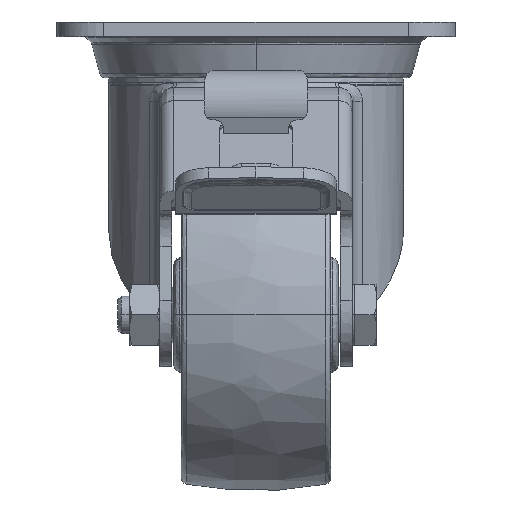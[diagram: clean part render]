
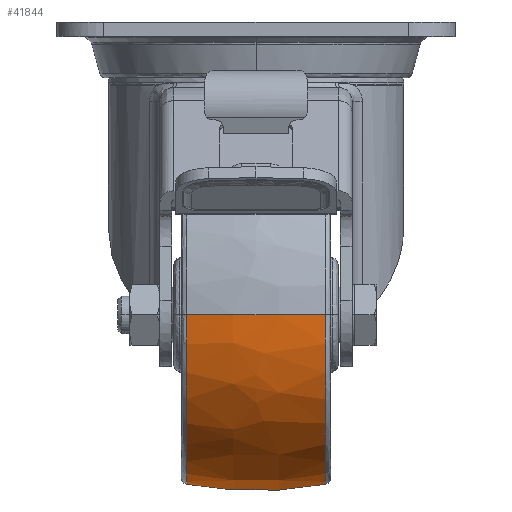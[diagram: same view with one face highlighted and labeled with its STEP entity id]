
A CAD part, top view. The second image highlights one B-rep face of the part: STEP entity #41844.
In plain terms, the highlighted free-form (B-spline) face has degree [3, 3] with [4, 4] control points.
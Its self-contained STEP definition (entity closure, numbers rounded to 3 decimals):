
#70 = CARTESIAN_POINT ( 'NONE',  ( 14.777, -62.5, 5.877 ) ) ;
#1268 = CARTESIAN_POINT ( 'NONE',  ( 14.777, -62.5, 42. ) ) ;
#1372 = CARTESIAN_POINT ( 'NONE',  ( -14.777, -62.5, 78.123 ) ) ;
#1439 = EDGE_CURVE ( 'NONE', #67720, #76233, #47292, .T. ) ;
#4287 = EDGE_CURVE ( 'NONE', #67720, #50850, #53947, .T. ) ;
#6121 = FACE_OUTER_BOUND ( 'NONE', #81586, .T. ) ;
#7636 = DIRECTION ( 'NONE',  ( 0., 0., 1. ) ) ;
#7740 = CARTESIAN_POINT ( 'NONE',  ( -4.983, -138.428, 4.036 ) ) ;
#8200 = VERTEX_POINT ( 'NONE', #70 ) ;
#9802 =( BOUNDED_SURFACE ( )  B_SPLINE_SURFACE ( 3, 3, ( 
 ( #13760, #32769, #39087, #1372 ),
 ( #45418, #7740, #51758, #14027 ),
 ( #58120, #20389, #64376, #26715 ),
 ( #70677, #33037, #76969, #39349 ) ),
 .UNSPECIFIED., .F., .F., .F. ) 
 B_SPLINE_SURFACE_WITH_KNOTS ( ( 4, 4 ),
 ( 4, 4 ),
 ( 0., 1. ),
 ( 0., 1. ),
 .UNSPECIFIED. ) 
 GEOMETRIC_REPRESENTATION_ITEM ( )  RATIONAL_B_SPLINE_SURFACE ( (
 ( 1., 0.333, 0.333, 1.),
 ( 0.989, 0.33, 0.33, 0.989),
 ( 0.989, 0.33, 0.33, 0.989),
 ( 1., 0.333, 0.333, 1.) ) ) 
 REPRESENTATION_ITEM ( '' )  SURFACE ( )  );
#10421 = EDGE_CURVE ( 'NONE', #50850, #8200, #20574, .T. ) ;
#13760 = CARTESIAN_POINT ( 'NONE',  ( -14.777, -62.5, 5.877 ) ) ;
#14027 = CARTESIAN_POINT ( 'NONE',  ( -4.983, -62.5, 79.964 ) ) ;
#15638 = DIRECTION ( 'NONE',  ( 1., 0., 0. ) ) ;
#15745 = AXIS2_PLACEMENT_3D ( 'NONE', #53353, #15638, #59690 ) ;
#19171 = CARTESIAN_POINT ( 'NONE',  ( 0., -62.5, 84.5 ) ) ;
#20389 = CARTESIAN_POINT ( 'NONE',  ( 4.983, -138.428, 4.036 ) ) ;
#20574 = CIRCLE ( 'NONE', #72803, 80. ) ;
#25495 = DIRECTION ( 'NONE',  ( 0., 0., -1. ) ) ;
#25992 = DIRECTION ( 'NONE',  ( 0., 1., 0. ) ) ;
#26715 = CARTESIAN_POINT ( 'NONE',  ( 4.983, -62.5, 79.964 ) ) ;
#28533 = CARTESIAN_POINT ( 'NONE',  ( -14.777, -62.5, 5.877 ) ) ;
#32769 = CARTESIAN_POINT ( 'NONE',  ( -14.777, -134.747, 5.877 ) ) ;
#33037 = CARTESIAN_POINT ( 'NONE',  ( 14.777, -134.747, 5.877 ) ) ;
#35219 = AXIS2_PLACEMENT_3D ( 'NONE', #1268, #45328, #7636 ) ;
#36800 = ORIENTED_EDGE ( 'NONE', *, *, #4287, .T. ) ;
#39087 = CARTESIAN_POINT ( 'NONE',  ( -14.777, -134.747, 78.123 ) ) ;
#39349 = CARTESIAN_POINT ( 'NONE',  ( 14.777, -62.5, 78.123 ) ) ;
#39578 = ORIENTED_EDGE ( 'NONE', *, *, #10421, .T. ) ;
#41844 = ADVANCED_FACE ( 'NONE', ( #6121 ), #9802, .T. ) ;
#45328 = DIRECTION ( 'NONE',  ( -1., 0., 0. ) ) ;
#45418 = CARTESIAN_POINT ( 'NONE',  ( -4.983, -62.5, 4.036 ) ) ;
#47292 = CIRCLE ( 'NONE', #63580, 80. ) ;
#50850 = VERTEX_POINT ( 'NONE', #28533 ) ;
#51758 = CARTESIAN_POINT ( 'NONE',  ( -4.983, -138.428, 79.964 ) ) ;
#51938 = CARTESIAN_POINT ( 'NONE',  ( -14.777, -62.5, 78.123 ) ) ;
#52497 = ORIENTED_EDGE ( 'NONE', *, *, #67681, .T. ) ;
#53353 = CARTESIAN_POINT ( 'NONE',  ( -14.777, -62.5, 42. ) ) ;
#53814 = CIRCLE ( 'NONE', #35219, 36.123 ) ;
#53947 = CIRCLE ( 'NONE', #15745, 36.123 ) ;
#58120 = CARTESIAN_POINT ( 'NONE',  ( 4.983, -62.5, 4.036 ) ) ;
#59690 = DIRECTION ( 'NONE',  ( 0., 0., 1. ) ) ;
#63148 = DIRECTION ( 'NONE',  ( 0., -1., 0. ) ) ;
#63580 = AXIS2_PLACEMENT_3D ( 'NONE', #63655, #25992, #69977 ) ;
#63655 = CARTESIAN_POINT ( 'NONE',  ( 0., -62.5, -0.5 ) ) ;
#64376 = CARTESIAN_POINT ( 'NONE',  ( 4.983, -138.428, 79.964 ) ) ;
#67681 = EDGE_CURVE ( 'NONE', #8200, #76233, #53814, .T. ) ;
#67720 = VERTEX_POINT ( 'NONE', #51938 ) ;
#69577 = CARTESIAN_POINT ( 'NONE',  ( 14.777, -62.5, 78.123 ) ) ;
#69725 = ORIENTED_EDGE ( 'NONE', *, *, #1439, .F. ) ;
#69977 = DIRECTION ( 'NONE',  ( 0., 0., 1. ) ) ;
#70677 = CARTESIAN_POINT ( 'NONE',  ( 14.777, -62.5, 5.877 ) ) ;
#72803 = AXIS2_PLACEMENT_3D ( 'NONE', #19171, #63148, #25495 ) ;
#76233 = VERTEX_POINT ( 'NONE', #69577 ) ;
#76969 = CARTESIAN_POINT ( 'NONE',  ( 14.777, -134.747, 78.123 ) ) ;
#81586 = EDGE_LOOP ( 'NONE', ( #36800, #39578, #52497, #69725 ) ) ;
